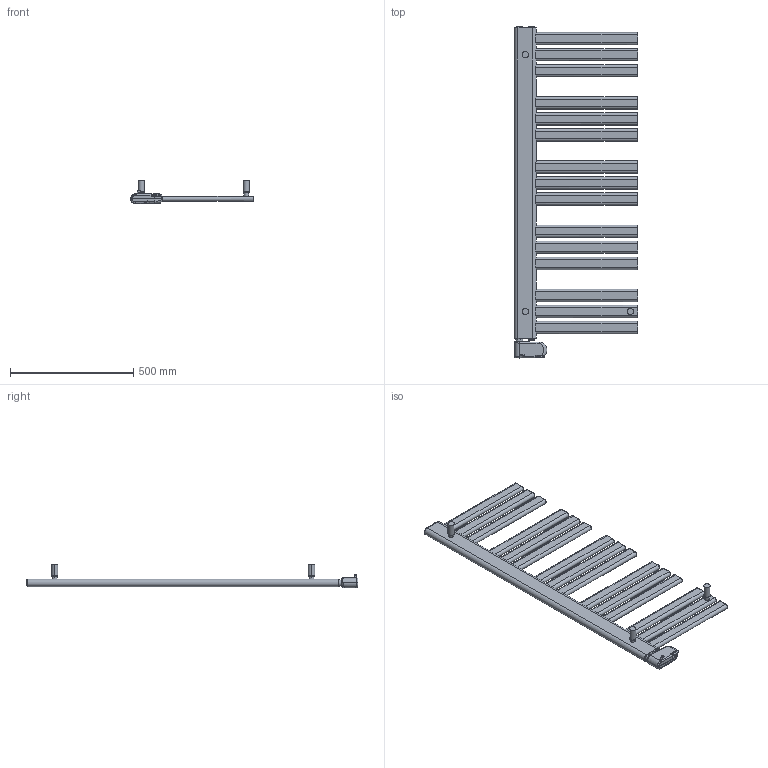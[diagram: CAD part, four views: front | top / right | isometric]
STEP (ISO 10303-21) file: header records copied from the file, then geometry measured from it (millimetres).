
FILE_DESCRIPTION((''),'2;1');
FILE_NAME('3581776100022_3D_SITO_ASM','2023-01-24T12:20:49',('PC132'),(''),'CREO PARAMETRIC BY PTC INC, 2022124','CREO PARAMETRIC BY PTC INC, 2022124','');
FILE_SCHEMA(('AUTOMOTIVE_DESIGN { 1 0 10303 214 1 1 1 1 }'));
Length unit declared in the file: millimetre
Products named in the file (6): 3581776100022_3D_SITO; 1010181240001; 1035270000037_FRONT; 1035270000037_BACK; 1035270000021_ASM; 3581776100022_3D_SITO_ASM
Assembly tree (7 placements, depth 3):
  3581776100022_3D_SITO_ASM
    3581776100022_3D_SITO
    1010181240001  x3
    1035270000021_ASM
      1035270000037_FRONT
      1035270000037_BACK
Bounding box: 500 x 1344.4 x 96 mm (x, y, z)
Volume: 9179685.9 mm3; surface area: 1103576.8 mm2
Topology: 9 solids, 10 shells, 496 faces, 1178 edges, 739 vertices
Faces by surface type: cylinder 172, plane 162, torus 70, bspline 51, cone 24, sphere 17
Entity records: 33155 total; most frequent: CARTESIAN_POINT 16107, DIRECTION 2221, ORIENTED_EDGE 1932, PRESENTATION_STYLE_ASSIGNMENT 1072, STYLED_ITEM 1068, CURVE_STYLE 1063, EDGE_CURVE 966, AXIS2_PLACEMENT_3D 879
